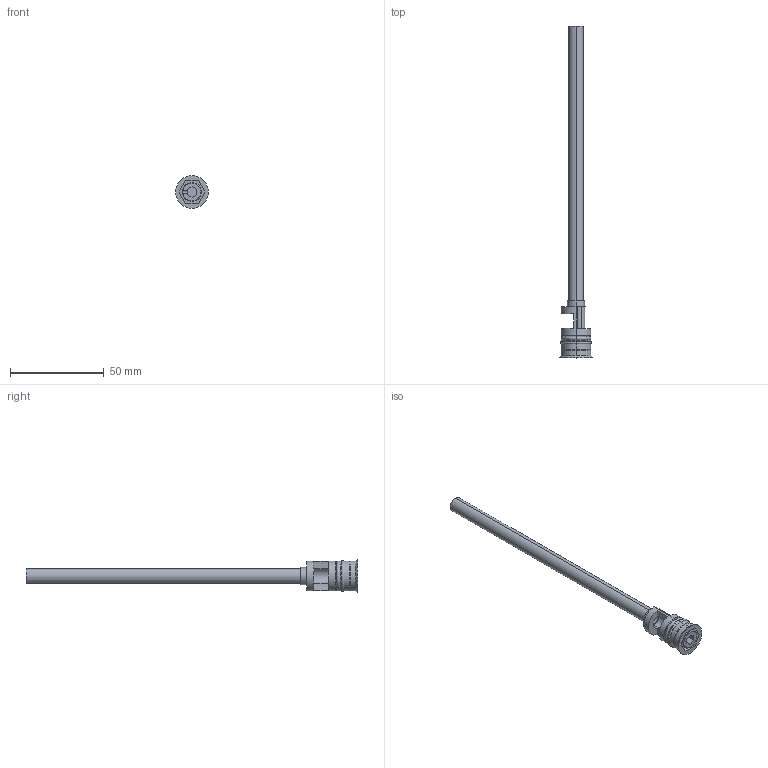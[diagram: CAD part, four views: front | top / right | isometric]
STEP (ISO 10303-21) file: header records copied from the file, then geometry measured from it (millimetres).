
FILE_DESCRIPTION (( 'STEP AP203' ), '1' );
FILE_NAME ('RF-16Fx150.STEP', '2015-11-24T10:53:14', ( 'Balzi' ), ( '' ), 'SwSTEP 2.0', 'SolidWorks 2015', '' );
FILE_SCHEMA (( 'CONFIG_CONTROL_DESIGN' ));
Length unit declared in the file: millimetre
Products named in the file (1): RF-16Fx150
Bounding box: 17.5 x 177.5 x 17.5 mm (x, y, z)
Volume: 5187.9 mm3; surface area: 9672.7 mm2
Topology: 1 solids, 1 shells, 74 faces, 170 edges, 106 vertices
Faces by surface type: cylinder 26, plane 26, cone 14, torus 8
Entity records: 2194 total; most frequent: DIRECTION 401, CARTESIAN_POINT 370, ORIENTED_EDGE 340, EDGE_CURVE 170, AXIS2_PLACEMENT_3D 161, VERTEX_POINT 106, CIRCLE 86, EDGE_LOOP 84
